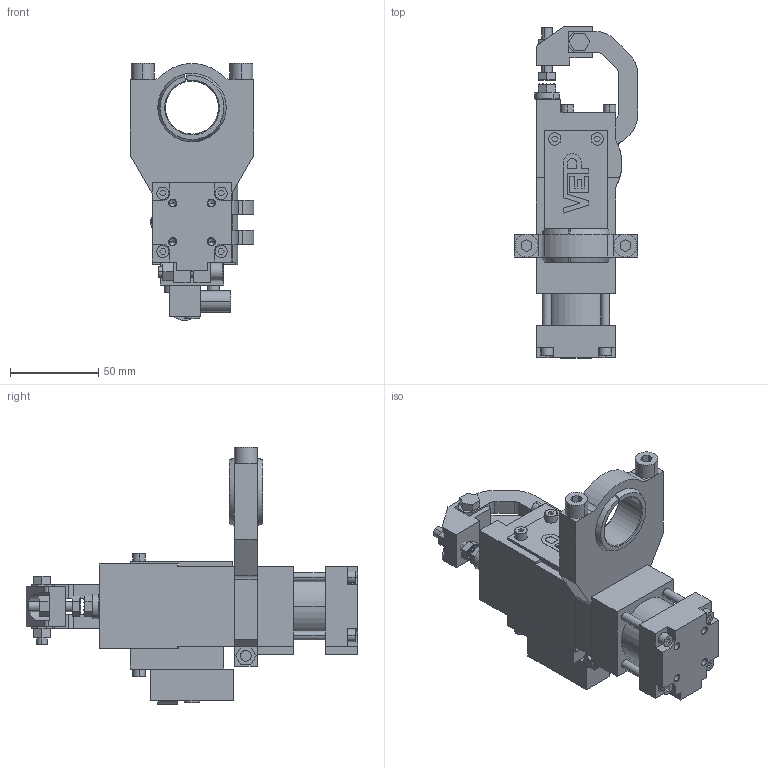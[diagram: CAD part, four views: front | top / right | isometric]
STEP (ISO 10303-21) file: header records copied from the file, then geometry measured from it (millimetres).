
FILE_DESCRIPTION (( 'STEP AP214' ), '1' );
FILE_NAME ('b32_a1s4_pra___a_b30.STEP', '2018-05-08T12:50:45', ( 'vepadmin' ), ( 'Hewlett-Packard Company' ), 'SwSTEP 2.0', 'SolidWorks 2018', '' );
FILE_SCHEMA (( 'AUTOMOTIVE_DESIGN' ));
Length unit declared in the file: millimetre
Products named in the file (13): gruppo_cilindro_b32; blocchetto_p&f_90; scatola_micro_b32; riparo_micro_b32; leva_b32a; gruppo_montante_b32a; b32_a1s4_pra___a_b30; calotta_sferica_30_b32; attacco_snodo_b30_b32; tassello_a1_b32; piedino_zigrinato_M6x25; rondella_s4_b32a; piedino_zigrinato_M6x10
Assembly tree (12 placements, depth 2):
  b32_a1s4_pra___a_b30
    gruppo_montante_b32a
    leva_b32a
    riparo_micro_b32
    scatola_micro_b32
    blocchetto_p&f_90
    gruppo_cilindro_b32
    piedino_zigrinato_M6x10
    rondella_s4_b32a
    piedino_zigrinato_M6x25
    tassello_a1_b32
    attacco_snodo_b30_b32
    calotta_sferica_30_b32
Bounding box: 70 x 188 x 145.6 mm (x, y, z)
Volume: 386969.4 mm3; surface area: 111006.9 mm2
Topology: 12 solids, 12 shells, 837 faces, 2042 edges, 1320 vertices
Faces by surface type: plane 565, cylinder 220, cone 48, sphere 4
Entity records: 24801 total; most frequent: CARTESIAN_POINT 4479, DIRECTION 4082, ORIENTED_EDGE 4034, EDGE_CURVE 2017, VECTOR 1466, LINE 1466, VERTEX_POINT 1313, AXIS2_PLACEMENT_3D 1308
